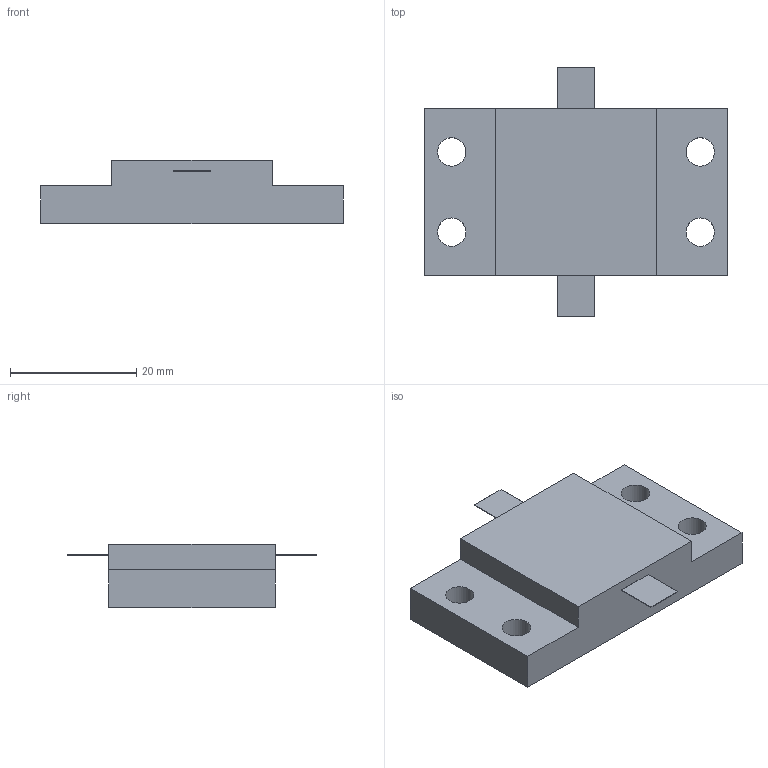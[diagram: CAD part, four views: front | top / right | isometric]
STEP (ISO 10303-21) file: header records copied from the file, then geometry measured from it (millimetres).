
FILE_DESCRIPTION(('STEP AP203'), '1');
FILE_NAME('P1-170-800-46', '', ('UNSPECIFIED'), ('UNSPECIFIED'), 'ASCON STEP Converter 1.6', 'ASCON Math Kernel', '');
FILE_SCHEMA(('CONFIG_CONTROL_DESIGN'));
Length unit declared in the file: millimetre
Bounding box: 48 x 39.6 x 10 mm (x, y, z)
Volume: 9911.7 mm3; surface area: 4214.7 mm2
Topology: 1 solids, 1 shells, 24 faces, 60 edges, 40 vertices
Faces by surface type: plane 20, cylinder 4
Full cylindrical faces by diameter (mm): 4.5 x4
Entity records: 944 total; most frequent: CARTESIAN_POINT 121, DIRECTION 114, ORIENTED_EDGE 112, EDGE_CURVE 56, LINE 48, VECTOR 48, VERTEX_POINT 40, EDGE_LOOP 38
